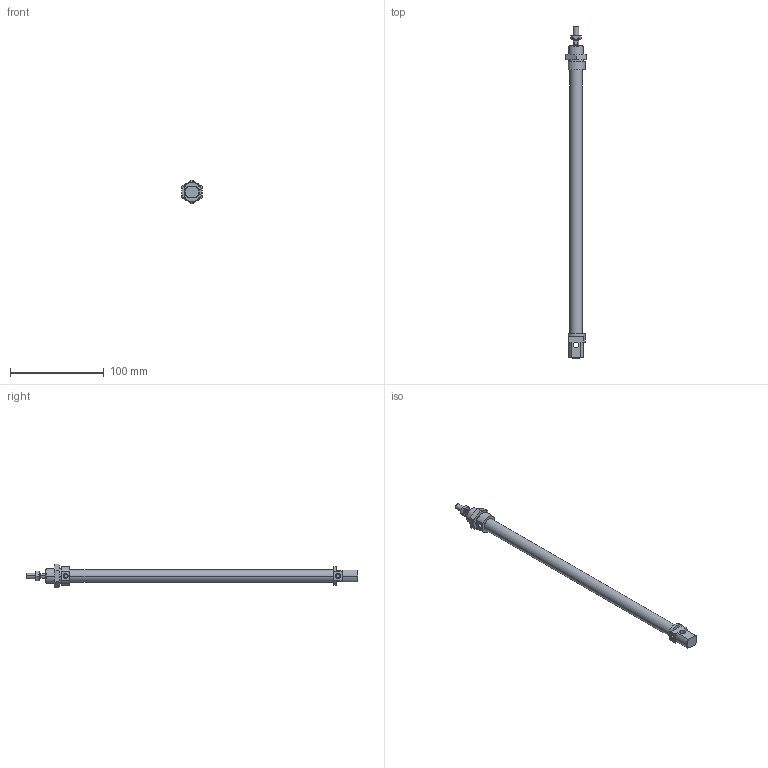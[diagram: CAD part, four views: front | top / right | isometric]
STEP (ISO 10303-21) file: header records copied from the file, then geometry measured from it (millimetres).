
FILE_DESCRIPTION((''),'2;1');
FILE_NAME('I:\DOC-EDP\Lib-3d\1200\CILINDRI\1280\1280_12_0250.stp','2003-04-07T14:51:19',('maffial1'),(''),'Autodesk Inventor (R) 6.0','Autodesk Inventor (R) 6.0','');
FILE_SCHEMA(('AUTOMOTIVE_DESIGN { 1 0 10303 214 1 1 1 1 }'));
Length unit declared in the file: millimetre
Products named in the file (5): 1280_12_0250; S1280_12_250; 1200_12_05; 1200_12_06; C1280_12_250
Assembly tree (4 placements, depth 2):
  1280_12_0250
    S1280_12_250
    1200_12_05
    1200_12_06
    C1280_12_250
Bounding box: 22 x 355 x 25.4 mm (x, y, z)
Volume: 51643.3 mm3; surface area: 27997.3 mm2
Topology: 4 solids, 4 shells, 121 faces, 268 edges, 162 vertices
Faces by surface type: cone 40, plane 39, cylinder 22, bspline 20
Entity records: 3653 total; most frequent: CARTESIAN_POINT 976, DIRECTION 556, ORIENTED_EDGE 536, EDGE_CURVE 268, AXIS2_PLACEMENT_3D 230, VERTEX_POINT 162, EDGE_LOOP 134, FACE_OUTER_BOUND 121
